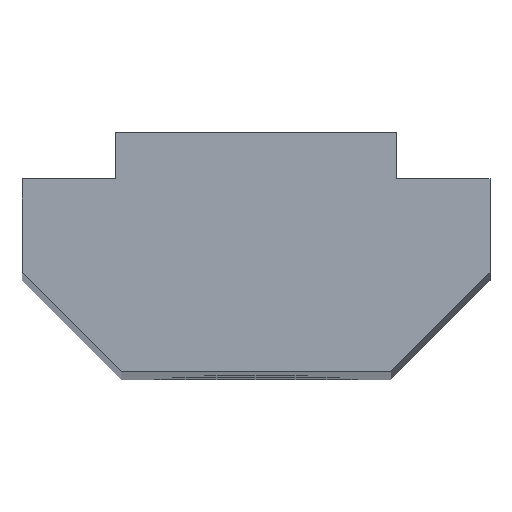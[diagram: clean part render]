
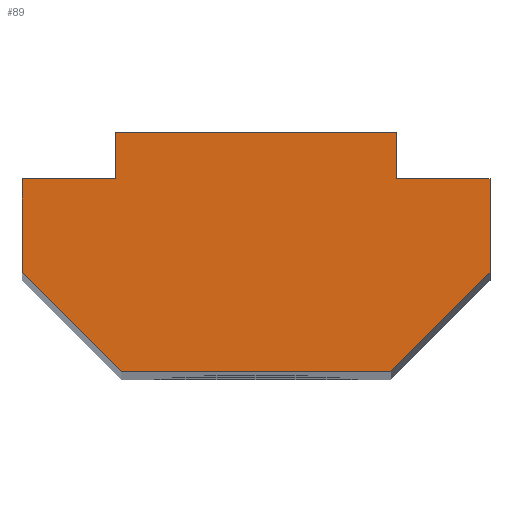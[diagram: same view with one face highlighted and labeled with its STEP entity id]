
A CAD part, top view. The second image highlights one B-rep face of the part: STEP entity #89.
In plain terms, the highlighted planar face has unit normal (0, 0, 1).
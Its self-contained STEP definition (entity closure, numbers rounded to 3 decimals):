
#1 = VERTEX_POINT ( 'NONE', #677 ) ;
#2 = CARTESIAN_POINT ( 'NONE',  ( -28.308, 0., 100. ) ) ;
#28 = CARTESIAN_POINT ( 'NONE',  ( -26.187, -4.121, 100. ) ) ;
#32 = DIRECTION ( 'NONE',  ( -1., 0., 0. ) ) ;
#40 = VERTEX_POINT ( 'NONE', #682 ) ;
#50 = VECTOR ( 'NONE', #831, 1000. ) ;
#69 = CARTESIAN_POINT ( 'NONE',  ( -20.308, 1., 100. ) ) ;
#73 = DIRECTION ( 'NONE',  ( 0., 1., 0. ) ) ;
#85 = DIRECTION ( 'NONE',  ( -1., 0., 0. ) ) ;
#89 = ADVANCED_FACE ( 'NONE', ( #1030 ), #775, .F. ) ;
#101 = CARTESIAN_POINT ( 'NONE',  ( -26.308, 1., 100. ) ) ;
#102 = LINE ( 'NONE', #592, #742 ) ;
#103 = LINE ( 'NONE', #924, #984 ) ;
#163 = LINE ( 'NONE', #380, #1060 ) ;
#189 = CARTESIAN_POINT ( 'NONE',  ( -18.308, -2., 100. ) ) ;
#197 = VERTEX_POINT ( 'NONE', #639 ) ;
#207 = VECTOR ( 'NONE', #85, 1000. ) ;
#214 = ORIENTED_EDGE ( 'NONE', *, *, #466, .T. ) ;
#223 = ORIENTED_EDGE ( 'NONE', *, *, #290, .T. ) ;
#227 = EDGE_CURVE ( 'NONE', #197, #475, #875, .T. ) ;
#238 = CARTESIAN_POINT ( 'NONE',  ( -26.308, 0., 100. ) ) ;
#239 = DIRECTION ( 'NONE',  ( 0., -1., 0. ) ) ;
#263 = DIRECTION ( 'NONE',  ( -1., 0., 0. ) ) ;
#287 = VERTEX_POINT ( 'NONE', #69 ) ;
#290 = EDGE_CURVE ( 'NONE', #1056, #1, #103, .T. ) ;
#302 = VERTEX_POINT ( 'NONE', #588 ) ;
#307 = LINE ( 'NONE', #910, #50 ) ;
#343 = DIRECTION ( 'NONE',  ( -1., 0., 0. ) ) ;
#380 = CARTESIAN_POINT ( 'NONE',  ( -20.308, 1., 100. ) ) ;
#386 = DIRECTION ( 'NONE',  ( 0., 1., 0. ) ) ;
#394 = LINE ( 'NONE', #101, #1027 ) ;
#444 = AXIS2_PLACEMENT_3D ( 'NONE', #934, #863, #343 ) ;
#446 = CARTESIAN_POINT ( 'NONE',  ( -26.187, -4.121, 100. ) ) ;
#466 = EDGE_CURVE ( 'NONE', #287, #976, #394, .T. ) ;
#467 = CARTESIAN_POINT ( 'NONE',  ( -20.308, 0., 100. ) ) ;
#472 = CARTESIAN_POINT ( 'NONE',  ( -26.308, 1., 100. ) ) ;
#475 = VERTEX_POINT ( 'NONE', #1052 ) ;
#487 = ORIENTED_EDGE ( 'NONE', *, *, #813, .T. ) ;
#506 = ORIENTED_EDGE ( 'NONE', *, *, #721, .T. ) ;
#535 = VECTOR ( 'NONE', #795, 1000. ) ;
#553 = VERTEX_POINT ( 'NONE', #28 ) ;
#560 = LINE ( 'NONE', #189, #535 ) ;
#583 = LINE ( 'NONE', #238, #1047 ) ;
#588 = CARTESIAN_POINT ( 'NONE',  ( -18.308, -2., 100. ) ) ;
#592 = CARTESIAN_POINT ( 'NONE',  ( -18.308, 0., 100. ) ) ;
#627 = EDGE_CURVE ( 'NONE', #976, #633, #583, .T. ) ;
#633 = VERTEX_POINT ( 'NONE', #850 ) ;
#639 = CARTESIAN_POINT ( 'NONE',  ( -18.308, 0., 100. ) ) ;
#655 = CARTESIAN_POINT ( 'NONE',  ( -28.308, 0., 100. ) ) ;
#661 = EDGE_CURVE ( 'NONE', #302, #197, #102, .T. ) ;
#677 = CARTESIAN_POINT ( 'NONE',  ( -28.308, -2., 100. ) ) ;
#682 = CARTESIAN_POINT ( 'NONE',  ( -20.43, -4.121, 100. ) ) ;
#721 = EDGE_CURVE ( 'NONE', #633, #1056, #900, .T. ) ;
#742 = VECTOR ( 'NONE', #73, 1000. ) ;
#758 = DIRECTION ( 'NONE',  ( 0., -1., 0. ) ) ;
#766 = ORIENTED_EDGE ( 'NONE', *, *, #857, .T. ) ;
#775 = PLANE ( 'NONE',  #444 ) ;
#795 = DIRECTION ( 'NONE',  ( 0.707, 0.707, 0. ) ) ;
#813 = EDGE_CURVE ( 'NONE', #553, #40, #1073, .T. ) ;
#831 = DIRECTION ( 'NONE',  ( 0.707, -0.707, 0. ) ) ;
#850 = CARTESIAN_POINT ( 'NONE',  ( -26.308, 0., 100. ) ) ;
#857 = EDGE_CURVE ( 'NONE', #40, #302, #560, .T. ) ;
#863 = DIRECTION ( 'NONE',  ( 0., 0., -1. ) ) ;
#875 = LINE ( 'NONE', #467, #1075 ) ;
#878 = DIRECTION ( 'NONE',  ( 1., 0., 0. ) ) ;
#900 = LINE ( 'NONE', #2, #207 ) ;
#910 = CARTESIAN_POINT ( 'NONE',  ( -28.308, -2., 100. ) ) ;
#924 = CARTESIAN_POINT ( 'NONE',  ( -28.308, 0., 100. ) ) ;
#934 = CARTESIAN_POINT ( 'NONE',  ( 0., 0., 100. ) ) ;
#937 = EDGE_LOOP ( 'NONE', ( #971, #506, #223, #962, #487, #766, #988, #1034, #1099, #214 ) ) ;
#962 = ORIENTED_EDGE ( 'NONE', *, *, #1094, .T. ) ;
#971 = ORIENTED_EDGE ( 'NONE', *, *, #627, .T. ) ;
#976 = VERTEX_POINT ( 'NONE', #472 ) ;
#978 = EDGE_CURVE ( 'NONE', #475, #287, #163, .T. ) ;
#984 = VECTOR ( 'NONE', #239, 1000. ) ;
#988 = ORIENTED_EDGE ( 'NONE', *, *, #661, .T. ) ;
#1007 = VECTOR ( 'NONE', #878, 1000. ) ;
#1027 = VECTOR ( 'NONE', #263, 1000. ) ;
#1030 = FACE_OUTER_BOUND ( 'NONE', #937, .T. ) ;
#1034 = ORIENTED_EDGE ( 'NONE', *, *, #227, .T. ) ;
#1047 = VECTOR ( 'NONE', #758, 1000. ) ;
#1052 = CARTESIAN_POINT ( 'NONE',  ( -20.308, 0., 100. ) ) ;
#1056 = VERTEX_POINT ( 'NONE', #655 ) ;
#1060 = VECTOR ( 'NONE', #386, 1000. ) ;
#1073 = LINE ( 'NONE', #446, #1007 ) ;
#1075 = VECTOR ( 'NONE', #32, 1000. ) ;
#1094 = EDGE_CURVE ( 'NONE', #1, #553, #307, .T. ) ;
#1099 = ORIENTED_EDGE ( 'NONE', *, *, #978, .T. ) ;
